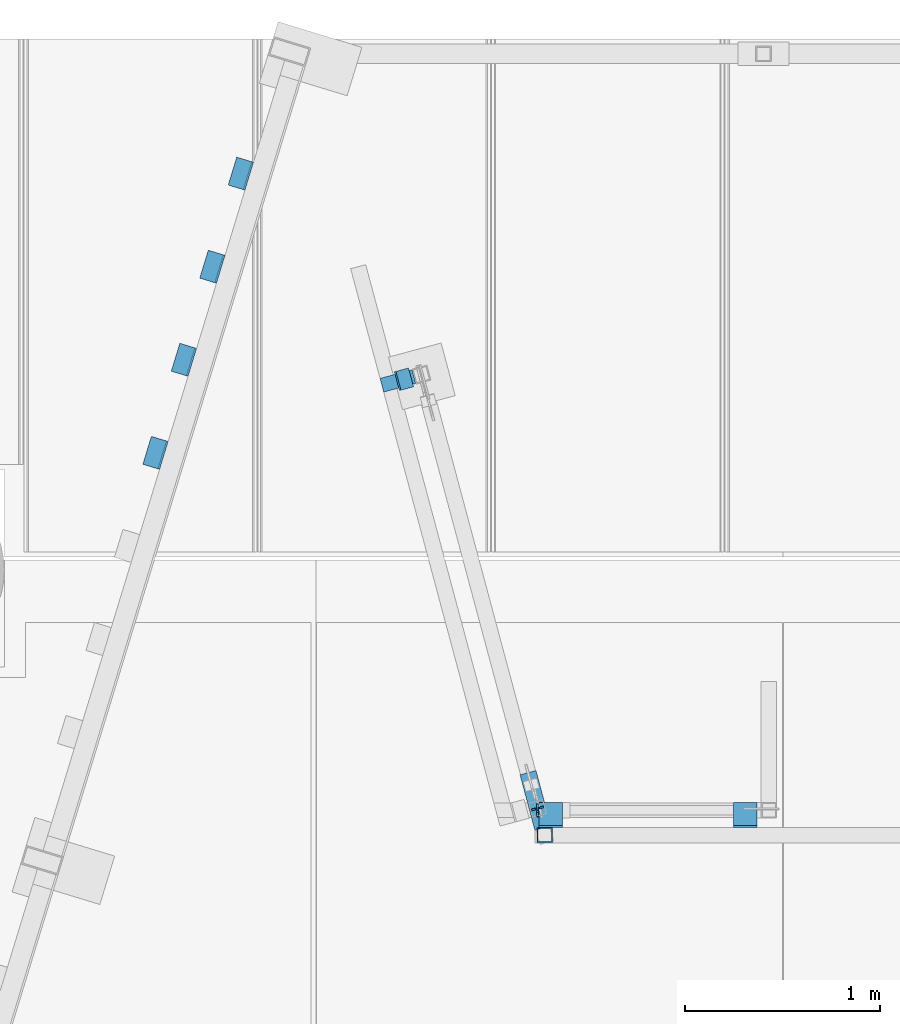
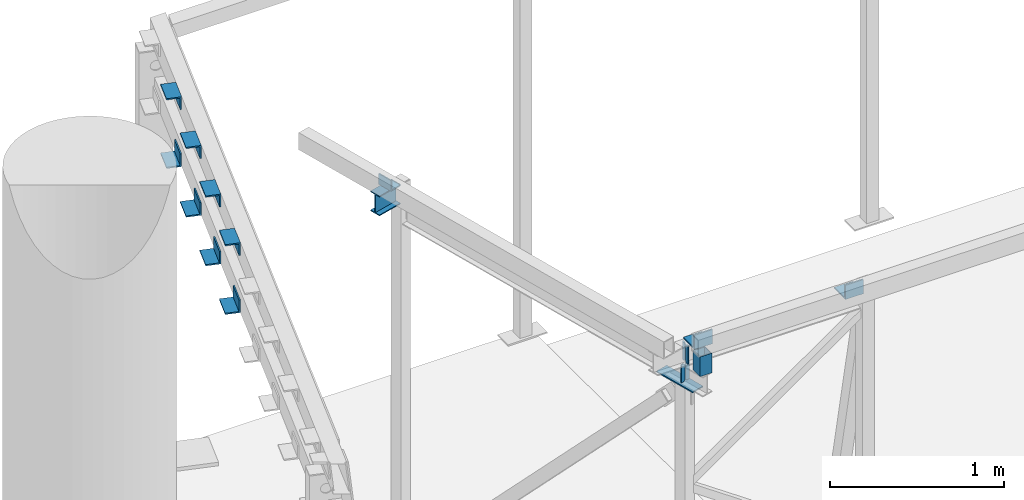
# One storey, part 13 of 19: 18 beams.
"""IFC2X3 building model written with IfcOpenShell, lengths in millimetres."""

from ifc_helpers import new_model, entity, si_unit, converted_unit, derived_unit, direction, frame, origin_with_axes, place, context, subcontext, project, spatial, faceted_brep, material, type_object, element, save


model = new_model("IFC2X3")

# Units and contexts
model_context = context("Model", 3, precision=0.01, world=frame((0.0, 4.29681676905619e-09, 0.0)), true_north=direction((4.01073788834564e-13, 1.0)))
plan_context = context("Plan", 3, precision=0.01, world=frame((0.0, 4.29681676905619e-09, 0.0)), true_north=direction((4.01073788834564e-13, 1.0)))
body_context = subcontext(model_context, "Body", "Model", "MODEL_VIEW")
ifc_project = project(units=[converted_unit("PLANEANGLEUNIT", "DEGREE", entity("IfcPositiveLengthMeasure", 0.0174532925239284), si_unit("PLANEANGLEUNIT", "RADIAN"), dimensions=[0, 0, 0, 0, 0, 0, 0]), si_unit("AREAUNIT", "SQUARE_METRE"), si_unit("LENGTHUNIT", "METRE", prefix="MILLI"), si_unit("MASSUNIT", "GRAM", prefix="KILO"), si_unit("POWERUNIT", "WATT"), si_unit("PRESSUREUNIT", "PASCAL", prefix="KILO"), si_unit("FORCEUNIT", "NEWTON", prefix="KILO"), si_unit("ELECTRICVOLTAGEUNIT", "VOLT"), si_unit("ELECTRICCURRENTUNIT", "AMPERE"), si_unit("THERMODYNAMICTEMPERATUREUNIT", "DEGREE_CELSIUS"), si_unit("TIMEUNIT", "SECOND"), si_unit("VOLUMEUNIT", "CUBIC_METRE"), derived_unit("LINEARVELOCITYUNIT", [(si_unit("LENGTHUNIT", "METRE"), 1), (si_unit("TIMEUNIT", "SECOND"), -1)]), derived_unit("VOLUMETRICFLOWRATEUNIT", [(si_unit("VOLUMEUNIT", "CUBIC_METRE"), 1), (si_unit("TIMEUNIT", "SECOND"), -1)]), derived_unit("THERMALTRANSMITTANCEUNIT", [(si_unit("POWERUNIT", "WATT"), 1), (si_unit("THERMODYNAMICTEMPERATUREUNIT", "KELVIN"), -1), (si_unit("AREAUNIT", "SQUARE_METRE"), -1)]), derived_unit("SOUNDPRESSUREUNIT", [(si_unit("PRESSUREUNIT", "PASCAL"), 1)])], contexts=[model_context, plan_context])

# Site, building, storey
site_placement = place(None, frame((0.0, -4.29681676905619e-09, 0.0), z_axis=(0.0, 0.0, 1.0), x_axis=(1.0, 0.0, 0.0)))
site = spatial("IfcSite", under=ifc_project, at=site_placement, Name="Gardermoen", CompositionType="ELEMENT")
building_placement = place(site_placement, frame((0.0, 4.29681676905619e-09, 0.0), z_axis=(0.0, 0.0, 1.0), x_axis=(1.0, 0.0, 0.0)))
building = spatial("IfcBuilding", under=site, at=building_placement, Name="TI", CompositionType="ELEMENT")
storey_placement = place(building_placement, origin_with_axes())
storey = spatial("IfcBuildingStorey", under=building, at=storey_placement, Name="F", CompositionType="ELEMENT", Elevation=0.0)

# Beams
ifc_material_1 = material(Name="STEEL/S355")
beam_type_1 = type_object("IfcBeamType", Name="RHS80*6.3", PredefinedType="NOTDEFINED")
beam_1_placement = place(storey_placement, frame((586276.259067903, 574136.759051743, 213440.0), z_axis=(0.0, 1.0, 0.0), x_axis=(0.0, 0.0, 1.0)))
element("IfcBeam", 1, at=beam_1_placement, inside=storey, type_object=beam_type_1, material=ifc_material_1, Name="STÅLBJELKE", ObjectType="RHS80*6.3", context=body_context, shape_type="Brep", body=[
    faceted_brep([(0.0, 33.6999998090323, -33.6999998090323), (0.0, -33.6999998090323, -33.6999998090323), (138.0, -33.6999998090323, -33.6999998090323), (138.0, 33.6999998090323, -33.6999998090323), (0.0, -33.6999998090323, 33.6999998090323), (138.0, -33.6999998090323, 33.6999998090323), (0.0, 33.6999998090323, 33.6999998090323), (138.0, 33.6999998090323, 33.6999998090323), (0.0, 40.0, -40.0), (0.0, 40.0, 40.0), (138.0, 40.0, 40.0), (138.0, 40.0, -40.0), (0.0, -40.0, 40.0), (138.0, -40.0, 40.0), (0.0, -40.0, -40.0), (138.0, -40.0, -40.0)], [[[0, 1, 2, 3]], [[1, 4, 5, 2]], [[4, 6, 7, 5]], [[6, 0, 3, 7]], [[8, 9, 10, 11]], [[9, 12, 13, 10]], [[12, 14, 15, 13]], [[14, 8, 11, 15]], [[13, 15, 11, 10], [5, 7, 3, 2]], [[14, 12, 9, 8], [6, 4, 1, 0]]]),
])
beam_type_2 = type_object("IfcBeamType", Name="PL8*85", PredefinedType="NOTDEFINED")
beam_2_placement = place(storey_placement, frame((586266.64252699, 574172.640889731, 213293.999732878), z_axis=(-0.965926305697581, -0.258817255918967, -1.14035220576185e-17), x_axis=(-0.258817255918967, 0.965926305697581, -1.00000761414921e-09)))
element("IfcBeam", 2, at=beam_2_placement, inside=storey, type_object=beam_type_2, material=ifc_material_1, Name="STÅLBJELKE", ObjectType="PL8*85", context=body_context, shape_type="Brep", body=[
    faceted_brep([(-3.49245965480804e-10, 4.0, -42.499999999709), (0.0, 4.0, 42.4999999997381), (295.000000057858, 4.0, 42.5000000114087), (295.000000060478, 4.0, -42.4999999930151), (1.16415321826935e-10, -4.0, 42.499999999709), (295.000000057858, -4.0, 42.5000000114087), (-2.3283064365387e-10, -4.0, -42.499999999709), (295.000000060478, -4.0, -42.4999999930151)], [[[0, 1, 2, 3]], [[1, 4, 5, 2]], [[4, 6, 7, 5]], [[6, 0, 3, 7]], [[5, 7, 3, 2]], [[6, 4, 1, 0]]]),
])
beam_type_3 = type_object("IfcBeamType", Name="IPE140", PredefinedType="NOTDEFINED")
beam_3_placement = place(storey_placement, frame((585439.544829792, 576447.92715126, 213507.999732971), z_axis=(-1.6430317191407e-06, -9.28017892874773e-07, 0.99999999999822), x_axis=(0.965923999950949, 0.258825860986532, 1.82723880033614e-06)))
element("IfcBeam", 3, at=beam_3_placement, inside=storey, type_object=beam_type_3, material=ifc_material_1, Name="STÅLBJELKE", ObjectType="IPE140", context=body_context, shape_type="Brep", body=[
    faceted_brep([(0.0, 36.5, -70.0), (0.0, 36.5, -63.0999999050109), (170.033256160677, 36.5000000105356, -63.0999999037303), (170.033256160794, 36.500000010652, -69.9999999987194), (0.0, 2.34999990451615, -63.0999999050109), (170.03325616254, 2.34999991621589, -63.0999999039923), (0.0, 2.34999990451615, 63.0999999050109), (170.033256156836, 2.34999991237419, 63.0999999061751), (0.0, 36.5, 63.0999999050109), (170.033256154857, 36.5000000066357, 63.0999999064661), (0.0, 36.5, 70.0), (170.033256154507, 36.5000000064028, 70.0000000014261), (0.0, -36.5, 70.0), (170.033256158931, -36.4999999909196, 70.000000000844), (0.0, -36.5, 63.0999999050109), (170.033256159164, -36.499999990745, 63.099999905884), (0.0, -2.34999990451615, 63.0999999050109), (170.033256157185, -2.34999989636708, 63.0999999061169), (0.0, -2.34999990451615, -63.0999999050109), (170.033256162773, -2.34999989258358, -63.0999999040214), (0.0, -36.5, -63.0999999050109), (170.033256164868, -36.4999999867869, -63.0999999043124), (0.0, -36.5, -70.0), (170.033256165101, -36.4999999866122, -69.9999999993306)], [[[0, 1, 2, 3]], [[1, 4, 5, 2]], [[4, 6, 7, 5]], [[6, 8, 9, 7]], [[8, 10, 11, 9]], [[10, 12, 13, 11]], [[12, 14, 15, 13]], [[14, 16, 17, 15]], [[16, 18, 19, 17]], [[18, 20, 21, 19]], [[20, 22, 23, 21]], [[22, 0, 3, 23]], [[5, 7, 9, 11, 13, 15, 17, 19, 21, 23, 3, 2]], [[22, 20, 18, 16, 14, 12, 10, 8, 6, 4, 1, 0]]]),
])
beam_type_4 = type_object("IfcBeamType", Name="L90*9", PredefinedType="NOTDEFINED")
for number, where, z_axis, x_axis in (
    (4, (584693.039533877, 577463.097220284, 213450.001068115), (-0.956310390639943, 0.292353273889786, -5.79999804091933e-08), (0.292353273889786, 0.956310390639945, -3.30052303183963e-14)),
    (5, (584693.039533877, 577463.097220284, 213850.001068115), (0.0, 0.0, -1.0), (0.292353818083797, 0.956310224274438, 0.0)),
    (6, (584546.859533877, 576984.937220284, 213450.001068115), (-0.956310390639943, 0.292353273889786, -5.79999804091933e-08), (0.292353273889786, 0.956310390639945, -3.30052303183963e-14)),
    (7, (584546.859533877, 576984.937220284, 213850.001068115), (0.0, 0.0, -1.0), (0.292353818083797, 0.956310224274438, 0.0)),
    (8, (584400.679533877, 576506.777220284, 213450.001068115), (-0.956310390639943, 0.292353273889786, -5.79999804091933e-08), (0.292353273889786, 0.956310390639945, -3.30052303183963e-14)),
    (9, (584400.679533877, 576506.777220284, 213850.001068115), (0.0, 0.0, -1.0), (0.292353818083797, 0.956310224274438, 0.0)),
    (10, (584254.499533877, 576028.617220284, 213450.001068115), (-0.956310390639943, 0.292353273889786, -5.79999804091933e-08), (0.292353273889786, 0.956310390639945, -3.30052303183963e-14)),
    (11, (584254.499533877, 576028.617220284, 213850.001068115), (0.0, 0.0, -1.0), (0.292353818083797, 0.956310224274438, 0.0)),
):
    element("IfcBeam", number, at=place(storey_placement, frame(where, z_axis=z_axis, x_axis=x_axis)), inside=storey, type_object=beam_type_4, material=ifc_material_1, Name="STÅLBJELKE", ObjectType="L90*9", context=body_context, shape_type="Brep", body=[
        faceted_brep([(0.0, 45.0, -45.0), (0.0, 45.0, 45.0), (149.994660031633, 45.0, 44.9999999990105), (149.994660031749, 45.0, -44.9999999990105), (8.14907252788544e-10, 36.0, 44.9999999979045), (149.994660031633, 36.0, 44.9999999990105), (-4.65661287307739e-10, 36.0, -35.9999999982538), (149.994660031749, 36.0, -35.9999999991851), (-4.65661287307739e-10, -45.0, -35.9999999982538), (149.994660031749, -45.0, -35.9999999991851), (0.0, -45.0, -45.0), (149.994660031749, -45.0, -44.9999999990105)], [[[0, 1, 2, 3]], [[1, 4, 5, 2]], [[4, 6, 7, 5]], [[6, 8, 9, 7]], [[8, 10, 11, 9]], [[10, 0, 3, 11]], [[5, 7, 9, 11, 3, 2]], [[10, 8, 6, 4, 1, 0]]]),
    ])
ifc_material_2 = material(Name="STEEL/S355J0")
beam_type_5 = type_object("IfcBeamType", Name="L75*8", PredefinedType="NOTDEFINED")
beam_4_placement = place(storey_placement, frame((585565.988143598, 576430.04337927, 213615.499732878), z_axis=(-2.58819226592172e-10, 9.65933660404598e-10, 1.0), x_axis=(-0.258817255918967, 0.965926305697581, -1.00000761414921e-09)))
element("IfcBeam", 12, at=beam_4_placement, inside=storey, type_object=beam_type_5, material=ifc_material_2, Name="STÅLBJELKE", ObjectType="L75*8", context=body_context, shape_type="Brep", body=[
    faceted_brep([(1.10594555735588e-09, 37.5, -37.4999999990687), (-1.33877620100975e-09, 37.5, 37.4999999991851), (100.000000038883, 37.5000000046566, 37.5000000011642), (100.000000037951, 37.5000000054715, -37.4999999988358), (-1.33877620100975e-09, 29.5, 37.4999999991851), (100.000000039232, 29.500000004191, 37.500000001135), (8.73114913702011e-10, 29.5, -29.4999999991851), (100.000000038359, 29.5000000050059, -29.499999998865), (8.73114913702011e-10, -37.5, -29.4999999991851), (100.000000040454, -37.499999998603, -29.4999999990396), (1.10594555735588e-09, -37.5, -37.4999999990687), (100.00000004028, -37.4999999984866, -37.4999999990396)], [[[0, 1, 2, 3]], [[1, 4, 5, 2]], [[4, 6, 7, 5]], [[6, 8, 9, 7]], [[8, 10, 11, 9]], [[10, 0, 3, 11]], [[5, 7, 9, 11, 3, 2]], [[10, 8, 6, 4, 1, 0]]]),
])
beam_type_6 = type_object("IfcBeamType", Name="L150*100*10", PredefinedType="NOTDEFINED")
for number, where, z_axis, x_axis in (
    (13, (587247.257886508, 574251.757711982, 213627.999732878), (-3.96769995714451e-05, 0.999999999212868, 0.0), (0.999999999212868, 3.96769995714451e-05, 0.0)),
    (14, (586247.257886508, 574251.757711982, 213627.999732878), (-3.96769995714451e-05, 0.999999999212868, 0.0), (0.999999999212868, 3.96769995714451e-05, 0.0)),
):
    element("IfcBeam", number, at=place(storey_placement, frame(where, z_axis=z_axis, x_axis=x_axis)), inside=storey, type_object=beam_type_6, material=ifc_material_2, Name="STÅLBJELKE", ObjectType="L150*100*10", context=body_context, shape_type="Brep", body=[
        faceted_brep([(0.0, -50.0, -75.0), (0.0, 50.0, -75.0), (119.998275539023, 50.0, -74.9999999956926), (119.998275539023, -50.0, -74.9999999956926), (1.28056854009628e-09, -50.0, -64.9999999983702), (119.99827553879, -50.0, -64.9999999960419), (1.28056854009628e-09, 40.0, -64.9999999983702), (119.99827553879, 40.0, -64.9999999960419), (119.998275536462, 40.0, 53.2064119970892), (-1.04773789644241e-09, 40.0, 53.2862259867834), (-1.04773789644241e-09, 50.0, 53.2862259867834), (119.998275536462, 50.0, 53.2064119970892)], [[[0, 1, 2, 3]], [[4, 0, 3, 5]], [[6, 4, 5, 7]], [[6, 7, 8, 9]], [[1, 0, 4, 6, 9, 10]], [[2, 1, 10, 11]], [[7, 5, 3, 2, 11, 8]], [[10, 9, 8, 11]]]),
    ])
beam_type_7 = type_object("IfcBeamType", Name="PL8*30", PredefinedType="NOTDEFINED")
beam_5_placement = place(storey_placement, frame((586239.028675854, 574231.912286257, 213444.899654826), z_axis=(0.0, 0.0, 1.0), x_axis=(3.9659997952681e-06, 0.999999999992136, 0.0)))
element("IfcBeam", 15, at=beam_5_placement, inside=storey, type_object=beam_type_7, material=ifc_material_1, Name="STÅLBJELKE", ObjectType="PL8*30", context=body_context, shape_type="Brep", body=[
    faceted_brep([(-5.82076609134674e-11, -3.99999999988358, 0.0), (-2.3283064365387e-10, -4.00000000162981, 126.199996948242), (-3.49245965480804e-10, 3.99999999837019, 126.199996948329), (-5.82076609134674e-11, 4.00000000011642, -5.82076609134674e-11), (20.0, -4.00000000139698, 126.199996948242), (19.9999999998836, 3.99999999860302, 126.199996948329), (30.0000000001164, -4.00000000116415, 116.199996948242), (30.0, 3.99999999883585, 116.199996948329), (30.0000000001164, -3.99999999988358, 9.9999999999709), (30.0000000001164, 4.00000000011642, 10.0000000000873), (20.0000000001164, -3.99999999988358, -2.91038304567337e-11), (20.0, 4.00000000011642, 8.73114913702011e-11)], [[[0, 1, 2, 3]], [[1, 4, 5, 2]], [[4, 6, 7, 5]], [[6, 8, 9, 7]], [[8, 10, 11, 9]], [[10, 0, 3, 11]], [[5, 7, 9, 11, 3, 2]], [[10, 8, 6, 4, 1, 0]]]),
])
beam_6_placement = place(storey_placement, frame((586239.028819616, 574266.612286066, 213444.899654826), z_axis=(0.0, 0.0, 1.0), x_axis=(3.9659997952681e-06, 0.999999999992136, 0.0)))
element("IfcBeam", 16, at=beam_6_placement, inside=storey, type_object=beam_type_7, material=ifc_material_1, Name="STÅLBJELKE", ObjectType="PL8*30", context=body_context, shape_type="Brep", body=[
    faceted_brep([(7.10249878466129e-07, -4.00000000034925, 10.0000000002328), (-2.3283064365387e-10, -4.0000000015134, 116.199996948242), (-2.3283064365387e-10, 3.99999999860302, 116.199996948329), (7.10017047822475e-07, 3.99999999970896, 10.000000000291), (9.99999999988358, -4.0000000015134, 126.199996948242), (9.99999999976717, 3.99999999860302, 126.199996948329), (30.0000000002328, -4.00000000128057, 126.199996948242), (30.0000000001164, 3.99999999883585, 126.199996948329), (30.0000000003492, -3.99999999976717, 0.0), (30.0000000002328, 4.00000000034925, 1.16415321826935e-10), (10.0000000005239, -4.0, 3.78349795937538e-10), (10.0000000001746, 3.99999999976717, 4.65661287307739e-10)], [[[0, 1, 2, 3]], [[1, 4, 5, 2]], [[4, 6, 7, 5]], [[6, 8, 9, 7]], [[8, 10, 11, 9]], [[10, 0, 3, 11]], [[5, 7, 9, 11, 3, 2]], [[10, 8, 6, 4, 1, 0]]]),
])
beam_7_placement = place(storey_placement, frame((586270.712475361, 574282.439424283, 213304.899733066), z_axis=(0.0, 0.0, 1.0), x_axis=(-0.965926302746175, -0.258817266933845, 0.0)))
element("IfcBeam", 17, at=beam_7_placement, inside=storey, type_object=beam_type_7, material=ifc_material_1, Name="STÅLBJELKE", ObjectType="PL8*30", context=body_context, shape_type="Brep", body=[
    faceted_brep([(-5.82076609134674e-11, -3.99999999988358, 0.0), (-2.3283064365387e-10, -4.00000000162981, 126.199996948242), (-3.49245965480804e-10, 3.99999999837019, 126.199996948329), (-5.82076609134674e-11, 4.00000000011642, -5.82076609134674e-11), (20.0, -4.00000000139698, 126.199996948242), (19.9999999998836, 3.99999999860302, 126.199996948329), (30.0000000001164, -4.00000000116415, 116.199996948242), (30.0, 3.99999999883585, 116.199996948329), (30.0000000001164, -3.99999999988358, 9.9999999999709), (30.0000000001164, 4.00000000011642, 10.0000000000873), (20.0000000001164, -3.99999999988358, -2.91038304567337e-11), (20.0, 4.00000000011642, 8.73114913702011e-11)], [[[0, 1, 2, 3]], [[1, 4, 5, 2]], [[4, 6, 7, 5]], [[6, 8, 9, 7]], [[8, 10, 11, 9]], [[10, 0, 3, 11]], [[5, 7, 9, 11, 3, 2]], [[10, 8, 6, 4, 1, 0]]]),
])
beam_8_placement = place(storey_placement, frame((586237.194832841, 574273.458465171, 213304.899733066), z_axis=(0.0, 0.0, 1.0), x_axis=(-0.965926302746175, -0.258817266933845, 0.0)))
element("IfcBeam", 18, at=beam_8_placement, inside=storey, type_object=beam_type_7, material=ifc_material_1, Name="STÅLBJELKE", ObjectType="PL8*30", context=body_context, shape_type="Brep", body=[
    faceted_brep([(7.10249878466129e-07, -4.00000000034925, 10.0000000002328), (-2.3283064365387e-10, -4.0000000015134, 116.199996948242), (-2.3283064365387e-10, 3.99999999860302, 116.199996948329), (7.10017047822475e-07, 3.99999999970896, 10.000000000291), (9.99999999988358, -4.0000000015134, 126.199996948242), (9.99999999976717, 3.99999999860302, 126.199996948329), (30.0000000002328, -4.00000000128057, 126.199996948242), (30.0000000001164, 3.99999999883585, 126.199996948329), (30.0000000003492, -3.99999999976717, 0.0), (30.0000000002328, 4.00000000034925, 1.16415321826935e-10), (10.0000000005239, -4.0, 3.78349795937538e-10), (10.0000000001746, 3.99999999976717, 4.65661287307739e-10)], [[[0, 1, 2, 3]], [[1, 4, 5, 2]], [[4, 6, 7, 5]], [[6, 8, 9, 7]], [[8, 10, 11, 9]], [[10, 0, 3, 11]], [[5, 7, 9, 11, 3, 2]], [[10, 8, 6, 4, 1, 0]]]),
])

save(model, "model.ifc")
